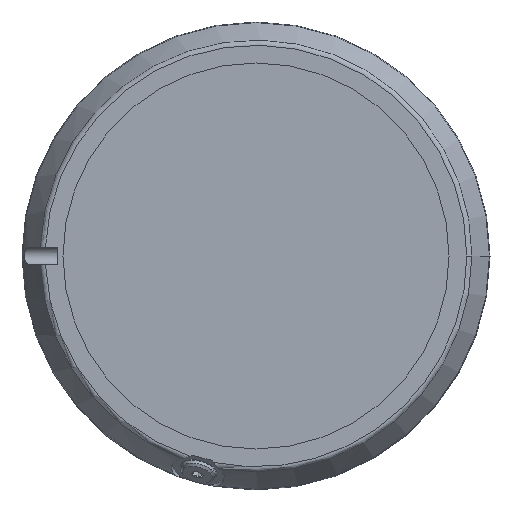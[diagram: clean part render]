
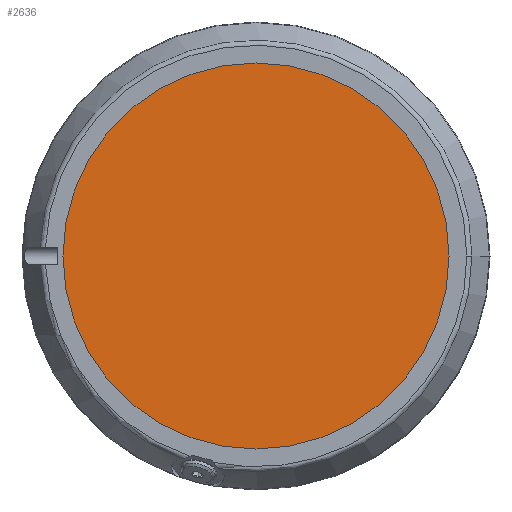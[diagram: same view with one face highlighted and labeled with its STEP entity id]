
A CAD part, left-side view. The second image highlights one B-rep face of the part: STEP entity #2636.
In plain terms, the highlighted planar face has unit normal (-1, 0, 0).
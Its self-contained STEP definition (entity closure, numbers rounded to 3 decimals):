
#389 = CARTESIAN_POINT ( 'NONE',  ( 1912.5, -66., 2165. ) ) ;
#404 = PLANE ( 'NONE',  #5419 ) ;
#506 = EDGE_CURVE ( 'NONE', #854, #3393, #5588, .T. ) ;
#538 = CARTESIAN_POINT ( 'NONE',  ( 1912.5, 66., 2165. ) ) ;
#600 = DIRECTION ( 'NONE',  ( -1., 0., 0. ) ) ;
#672 = EDGE_CURVE ( 'NONE', #3393, #854, #2153, .T. ) ;
#841 = DIRECTION ( 'NONE',  ( 0., -1., 0. ) ) ;
#854 = VERTEX_POINT ( 'NONE', #538 ) ;
#2121 = ORIENTED_EDGE ( 'NONE', *, *, #506, .T. ) ;
#2153 = CIRCLE ( 'NONE', #3958, 66. ) ;
#2201 = DIRECTION ( 'NONE',  ( 1., 0., 0. ) ) ;
#2305 = EDGE_LOOP ( 'NONE', ( #2797, #2121 ) ) ;
#2636 = ADVANCED_FACE ( 'NONE', ( #4018 ), #404, .F. ) ;
#2797 = ORIENTED_EDGE ( 'NONE', *, *, #672, .T. ) ;
#2842 = CARTESIAN_POINT ( 'NONE',  ( 1912.5, 0., 2165. ) ) ;
#3393 = VERTEX_POINT ( 'NONE', #389 ) ;
#3436 = DIRECTION ( 'NONE',  ( -1., 0., 0. ) ) ;
#3867 = AXIS2_PLACEMENT_3D ( 'NONE', #2842, #600, #4656 ) ;
#3958 = AXIS2_PLACEMENT_3D ( 'NONE', #3975, #3436, #841 ) ;
#3975 = CARTESIAN_POINT ( 'NONE',  ( 1912.5, 0., 2165. ) ) ;
#4018 = FACE_OUTER_BOUND ( 'NONE', #2305, .T. ) ;
#4656 = DIRECTION ( 'NONE',  ( 0., -1., 0. ) ) ;
#5419 = AXIS2_PLACEMENT_3D ( 'NONE', #5500, #2201, #5846 ) ;
#5500 = CARTESIAN_POINT ( 'NONE',  ( 1912.5, 0., 2185. ) ) ;
#5588 = CIRCLE ( 'NONE', #3867, 66. ) ;
#5846 = DIRECTION ( 'NONE',  ( 0., 1., 0. ) ) ;
